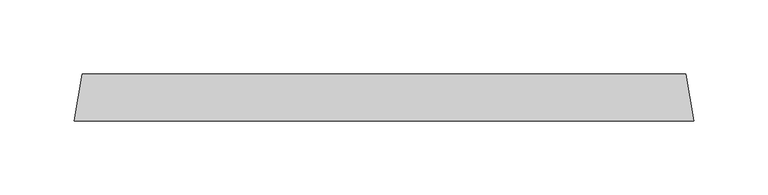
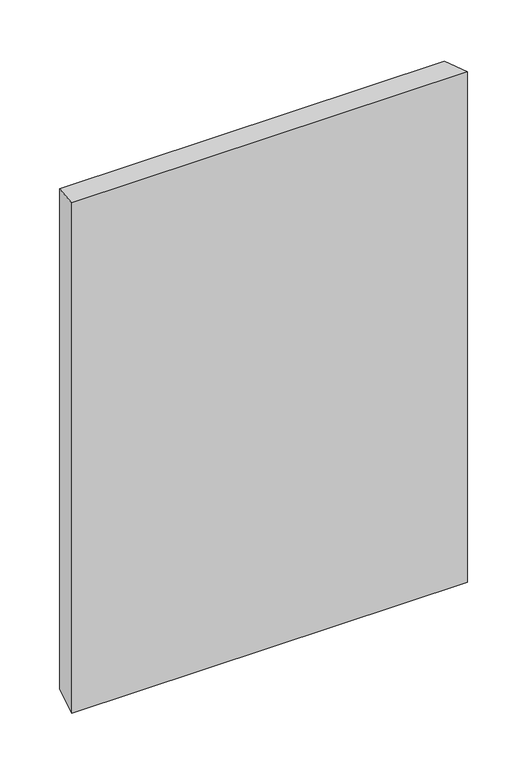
"""IFC4 building model written with IfcOpenShell, lengths in millimetres: proxy geometry, GRADIENT^TABLE 7_PYRAMID BASES-END BASE BOTTOM."""

from ifc_helpers import new_model, si_unit, origin, place, context, project, spatial, faceted_brep, source, transform, mapped, element, save


def generic_models_6a6425c0(model_context):
    return source(origin(), model_context, "Body", "Brep", [
        faceted_brep([(895.056123, -711.2, -1047.456123), (889.4577414, -679.45, -1041.8577414), (889.4577414, -679.45, -482.1422586), (895.056123, -711.2, -476.543877), (482.1422586, -679.45, -1041.8577414), (482.1422586, -679.45, -482.1422586), (476.543877, -711.2, -1047.456123), (476.543877, -711.2, -476.543877)], [[[0, 1, 2, 3]], [[1, 4, 5, 2]], [[4, 6, 7, 5]], [[6, 0, 3, 7]], [[2, 5, 7, 3]], [[4, 1, 0, 6]]]),
    ])


if __name__ == "__main__":
    model = new_model("IFC4")
    model_context = context("Model", 3, world=origin())
    ifc_project = project(units=[si_unit("LENGTHUNIT", "METRE", prefix="MILLI")], contexts=[model_context])
    site = spatial("IfcSite", under=ifc_project)
    building = spatial("IfcBuilding", under=site)
    placement = place(None, origin())
    generic_models_shape = generic_models_6a6425c0(model_context)
    element("IfcBuildingElementProxy", 1, Name="GRADIENT^TABLE 7_PYRAMID BASES-END BASE BOTTOM", ObjectType="GRADIENT^TABLE 7_PYRAMID BASES-END BASE BOTTOM", at=placement, inside=building, context=model_context, shape_type="MappedRepresentation", body=[
        mapped(generic_models_shape, transform((0.0, 0.0, 0.0), x_axis=(1.0, 0.0, 0.0), y_axis=(0.0, 1.0, 0.0), z_axis=(0.0, 0.0, 1.0))),
    ])
    save(model, "model.ifc")
